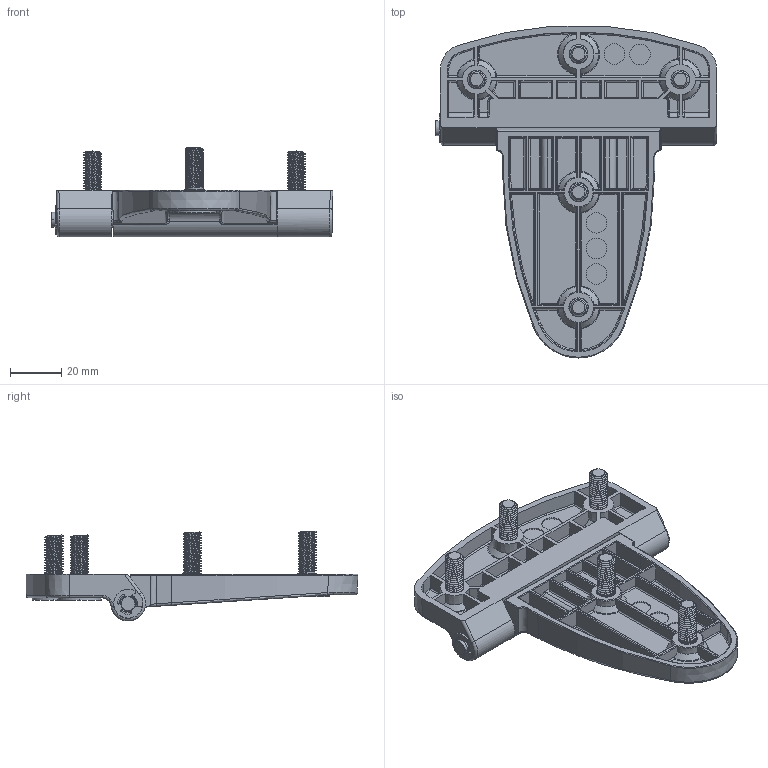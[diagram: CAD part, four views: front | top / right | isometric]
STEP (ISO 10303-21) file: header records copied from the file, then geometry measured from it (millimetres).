
FILE_DESCRIPTION (( 'STEP AP214' ), '1' );
FILE_NAME ('3.590.002.STEP', '2025-01-02T13:15:10', ( '' ), ( '' ), 'SwSTEP 2.0', 'SolidWorks 2021', '' );
FILE_SCHEMA (( 'AUTOMOTIVE_DESIGN' ));
Length unit declared in the file: millimetre
Products named in the file (6): 5.A171.005.001_00-00; 5.A171.005.002_00-00; 5.A171.005.003_00-00; DIN 6799_A2 - fi 5; 3.590.002; 5.A171.005.004_00-00
Assembly tree (9 placements, depth 2):
  3.590.002
    5.A171.005.001_00-00
    DIN 6799_A2 - fi 5
    5.A171.005.003_00-00
    5.A171.005.004_00-00
    5.A171.005.002_00-00  x5
Bounding box: 110 x 129.73 x 35.13 mm (x, y, z)
Volume: 63387.2 mm3; surface area: 45393.8 mm2
Topology: 9 solids, 9 shells, 1658 faces, 4833 edges, 3235 vertices
Faces by surface type: plane 838, cylinder 563, cone 120, bspline 69, torus 64, sphere 4
Entity records: 31785 total; most frequent: CARTESIAN_POINT 12618, ORIENTED_EDGE 4278, DIRECTION 3597, EDGE_CURVE 2139, VERTEX_POINT 1363, AXIS2_PLACEMENT_3D 1308, LINE 981, VECTOR 981
